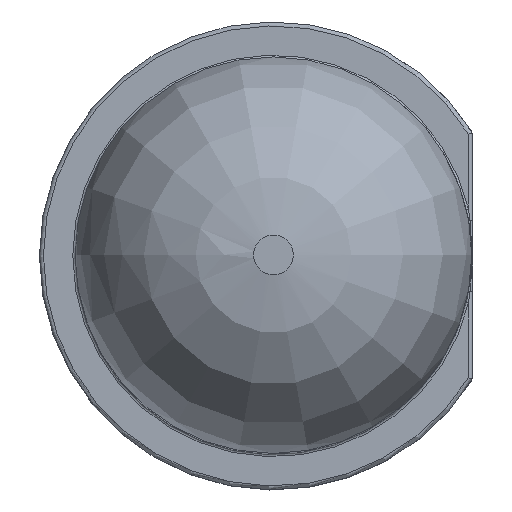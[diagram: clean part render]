
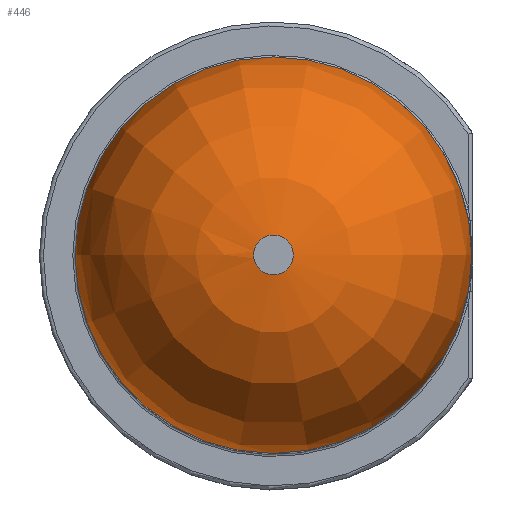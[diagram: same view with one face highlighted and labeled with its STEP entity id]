
A CAD part, top view. The second image highlights one B-rep face of the part: STEP entity #446.
In plain terms, the highlighted face is a revolution surface.
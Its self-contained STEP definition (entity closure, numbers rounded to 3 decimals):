
#347 = VERTEX_POINT('',#348);
#348 = CARTESIAN_POINT('',(-1.25,0.,9.45));
#353 = EDGE_CURVE('',#347,#347,#354,.T.);
#354 = CIRCLE('',#355,2.5);
#355 = AXIS2_PLACEMENT_3D('',#356,#357,#358);
#356 = CARTESIAN_POINT('',(1.25,0.,9.45));
#357 = DIRECTION('',(0.,0.,-1.));
#358 = DIRECTION('',(-1.,0.,0.));
#446 = ADVANCED_FACE('',(#447),#470,.T.);
#447 = FACE_BOUND('',#448,.T.);
#448 = EDGE_LOOP('',(#449,#458,#468,#469));
#449 = ORIENTED_EDGE('',*,*,#450,.T.);
#450 = EDGE_CURVE('',#451,#451,#453,.T.);
#451 = VERTEX_POINT('',#452);
#452 = CARTESIAN_POINT('',(1.,0.,11.7));
#453 = CIRCLE('',#454,0.25);
#454 = AXIS2_PLACEMENT_3D('',#455,#456,#457);
#455 = CARTESIAN_POINT('',(1.25,0.,11.7));
#456 = DIRECTION('',(0.,0.,-1.));
#457 = DIRECTION('',(-1.,0.,0.));
#458 = ORIENTED_EDGE('',*,*,#459,.T.);
#459 = EDGE_CURVE('',#451,#347,#460,.T.);
#460 = ( BOUNDED_CURVE() B_SPLINE_CURVE(6,(#461,#462,#463,#464,#465,#466
,#467),.UNSPECIFIED.,.F.,.F.) B_SPLINE_CURVE_WITH_KNOTS((7,7),(
4.712,6.283),.PIECEWISE_BEZIER_KNOTS.) CURVE() 
GEOMETRIC_REPRESENTATION_ITEM() RATIONAL_B_SPLINE_CURVE((1.031,
    1.01,0.998,0.994,0.998,
1.01,1.031)) REPRESENTATION_ITEM('') );
#461 = CARTESIAN_POINT('',(1.,0.,11.7));
#462 = CARTESIAN_POINT('',(0.398,0.,11.7));
#463 = CARTESIAN_POINT('',(-0.187,0.,11.509));
#464 = CARTESIAN_POINT('',(-0.692,0.,11.142));
#465 = CARTESIAN_POINT('',(-1.059,0.,10.637));
#466 = CARTESIAN_POINT('',(-1.25,0.,10.052));
#467 = CARTESIAN_POINT('',(-1.25,0.,9.45));
#468 = ORIENTED_EDGE('',*,*,#353,.F.);
#469 = ORIENTED_EDGE('',*,*,#459,.F.);
#470 = SURFACE_OF_REVOLUTION('',#471,#484);
#471 = B_SPLINE_CURVE_WITH_KNOTS('',6,(#472,#473,#474,#475,#476,#477,
    #478,#479,#480,#481,#482,#483),.UNSPECIFIED.,.F.,.F.,(7,5,7),(
    4.712,5.498,6.283),.UNSPECIFIED.);
#472 = CARTESIAN_POINT('',(1.,0.,11.7));
#473 = CARTESIAN_POINT('',(0.705,0.,11.7));
#474 = CARTESIAN_POINT('',(0.411,0.,11.654));
#475 = CARTESIAN_POINT('',(0.126,0.,11.561));
#476 = CARTESIAN_POINT('',(-0.142,0.,11.425));
#477 = CARTESIAN_POINT('',(-0.383,0.,11.249));
#478 = CARTESIAN_POINT('',(-0.799,0.,10.833));
#479 = CARTESIAN_POINT('',(-0.975,0.,10.592));
#480 = CARTESIAN_POINT('',(-1.111,0.,10.324));
#481 = CARTESIAN_POINT('',(-1.204,0.,10.039));
#482 = CARTESIAN_POINT('',(-1.25,0.,9.745));
#483 = CARTESIAN_POINT('',(-1.25,0.,9.45));
#484 = AXIS1_PLACEMENT('',#485,#486);
#485 = CARTESIAN_POINT('',(1.25,0.,9.45));
#486 = DIRECTION('',(0.,0.,-1.));
